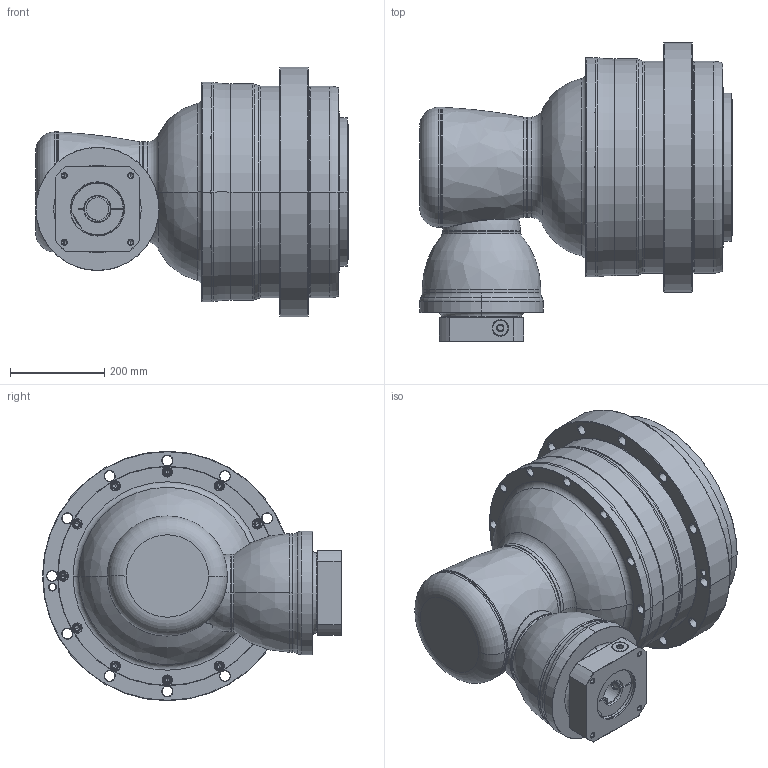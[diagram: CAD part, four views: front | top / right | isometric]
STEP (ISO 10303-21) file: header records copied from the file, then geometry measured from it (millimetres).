
FILE_DESCRIPTION((''),'2;1');
FILE_NAME('AHKA450_3ST_48-P0409B00101_ASM','2016-12-08T',('d01943'),(''),'PRO/ENGINEER BY PARAMETRIC TECHNOLOGY CORPORATION, 2008410','PRO/ENGINEER BY PARAMETRIC TECHNOLOGY CORPORATION, 2008410','');
FILE_SCHEMA(('CONFIG_CONTROL_DESIGN'));
Length unit declared in the file: millimetre
Products named in the file (12): P1008700002; P1821200001; P0276200003; P0357200003; P1315700001; P1007700001; P1318700301; P0409B00101; P0503B00016; P0912703201; 21711426021; AHKA450_3ST_48-P0409B00101_ASM
Assembly tree (11 placements, depth 2):
  AHKA450_3ST_48-P0409B00101_ASM
    P1008700002
    P1821200001
    P0276200003
    P0357200003
    P1315700001
    P1007700001
    P1318700301
    P0409B00101
    P0503B00016
    P0912703201
    21711426021
Bounding box: 663.5 x 635 x 530 mm (x, y, z)
Volume: 74113668.9 mm3; surface area: 2676641.2 mm2
Topology: 12 solids, 12 shells, 924 faces, 2044 edges, 1176 vertices
Faces by surface type: cone 332, cylinder 319, torus 122, plane 119, bspline 30, sphere 2
Entity records: 33023 total; most frequent: CARTESIAN_POINT 11976, DIRECTION 4860, ORIENTED_EDGE 3976, AXIS2_PLACEMENT_3D 2071, EDGE_CURVE 1988, VERTEX_POINT 1176, CIRCLE 1154, EDGE_LOOP 1104
